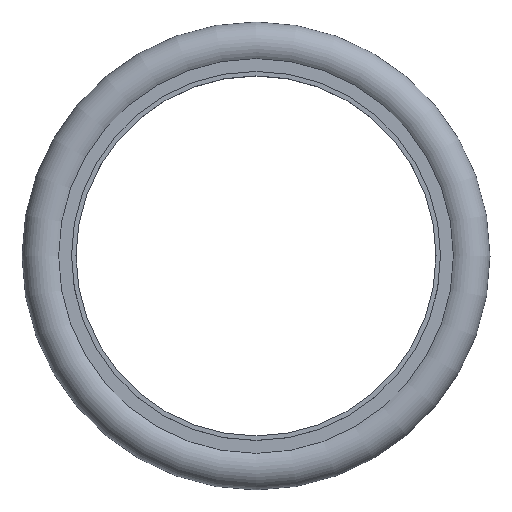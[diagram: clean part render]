
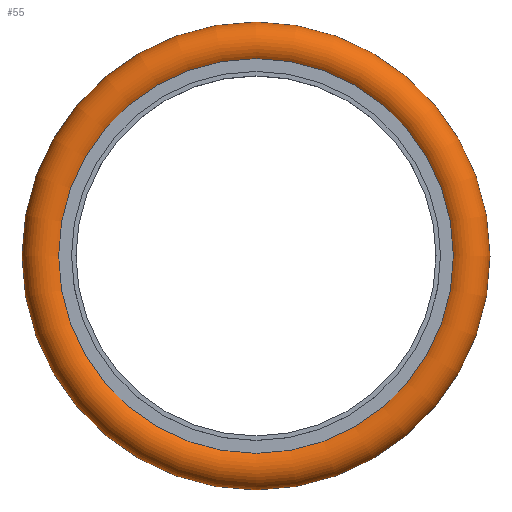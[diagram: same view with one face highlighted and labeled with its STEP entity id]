
A CAD part, top view. The second image highlights one B-rep face of the part: STEP entity #55.
In plain terms, the highlighted toroidal (fillet/blend) face has major radius 23.5 mm and minor radius 2.5 mm.
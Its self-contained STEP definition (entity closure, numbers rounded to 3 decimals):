
#55 = ADVANCED_FACE( '', ( #102, #103 ), #104, .T. );
#102 = FACE_OUTER_BOUND( '', #148, .T. );
#103 = FACE_OUTER_BOUND( '', #149, .T. );
#104 = TOROIDAL_SURFACE( '', #150, 23.5, 2.5 );
#148 = EDGE_LOOP( '', ( #182 ) );
#149 = EDGE_LOOP( '', ( #183 ) );
#150 = AXIS2_PLACEMENT_3D( '', #184, #185, #186 );
#182 = ORIENTED_EDGE( '', *, *, #231, .T. );
#183 = ORIENTED_EDGE( '', *, *, #232, .F. );
#184 = CARTESIAN_POINT( '', ( 0., 0., 0. ) );
#185 = DIRECTION( '', ( 0., 0., -1. ) );
#186 = DIRECTION( '', ( -1., 0., 0. ) );
#231 = EDGE_CURVE( '', #247, #247, #248, .T. );
#232 = EDGE_CURVE( '', #249, #249, #250, .T. );
#247 = VERTEX_POINT( '', #271 );
#248 = CIRCLE( '', #272, 21.936 );
#249 = VERTEX_POINT( '', #273 );
#250 = CIRCLE( '', #274, 21.936 );
#271 = CARTESIAN_POINT( '', ( -21.936, 0., 1.95 ) );
#272 = AXIS2_PLACEMENT_3D( '', #294, #295, #296 );
#273 = CARTESIAN_POINT( '', ( -21.936, 0., -1.95 ) );
#274 = AXIS2_PLACEMENT_3D( '', #297, #298, #299 );
#294 = CARTESIAN_POINT( '', ( 0., 0., 1.95 ) );
#295 = DIRECTION( '', ( 0., 0., -1. ) );
#296 = DIRECTION( '', ( -1., 0., 0. ) );
#297 = CARTESIAN_POINT( '', ( 0., 0., -1.95 ) );
#298 = DIRECTION( '', ( 0., 0., -1. ) );
#299 = DIRECTION( '', ( -1., 0., 0. ) );
